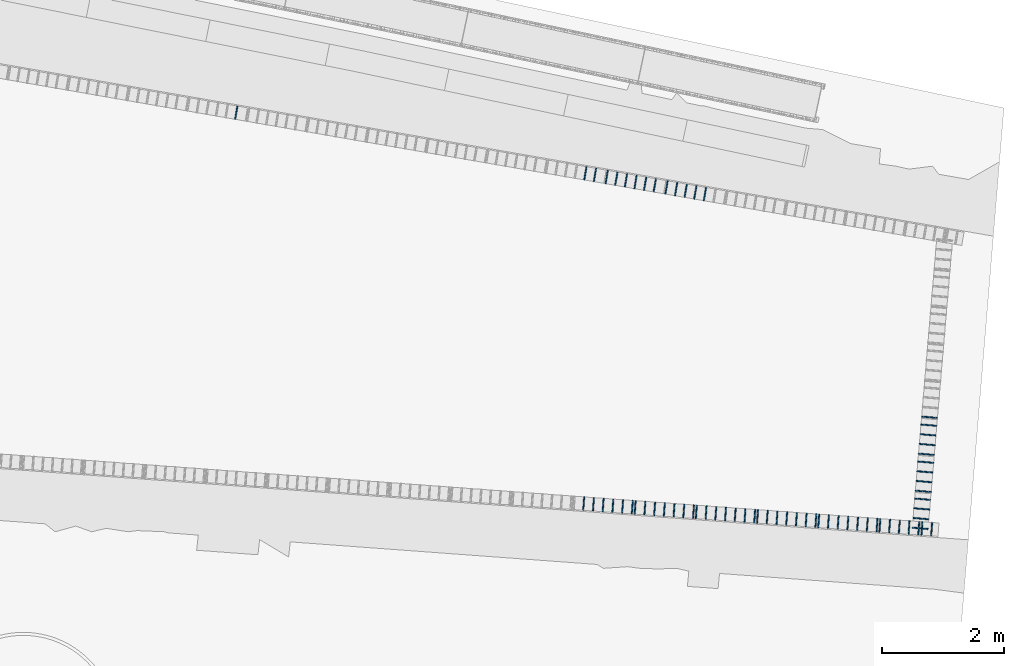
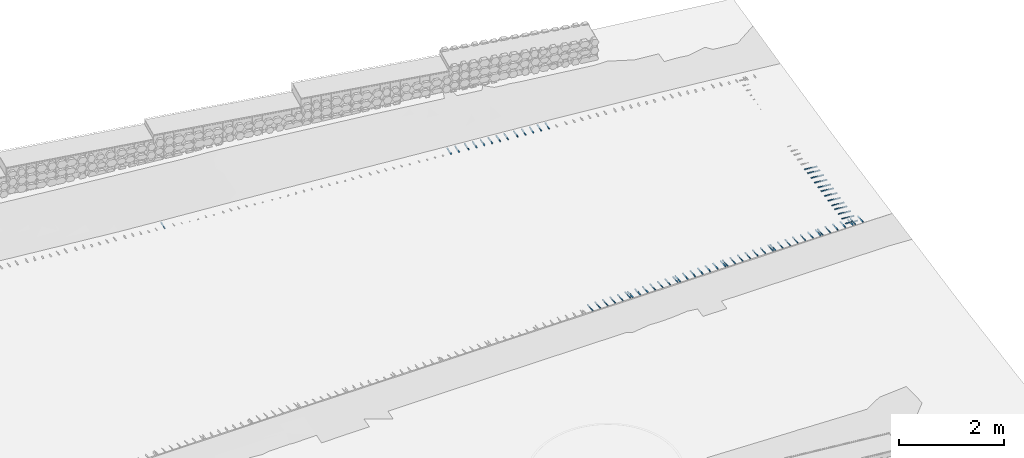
# Not in any storey, part 7 of 33: 68 members.
"""IFC4 model written with IfcOpenShell, lengths in metres."""

from ifc_helpers import new_model, si_unit, direction, frame, origin_with_axes, place, context, subcontext, project, spatial, rectangle, extrude, material, material_profile, profile_set, profile_usage, type_object, element, save


model = new_model("IFC4")

# Units and contexts
model_context = context("Model", 3, precision=1e-05, world=origin_with_axes(), true_north=direction((0.0, 1.0)))
body_context = subcontext(model_context, "Body", "Model", "MODEL_VIEW")
ifc_project = project(units=[si_unit("AREAUNIT", "SQUARE_METRE"), si_unit("VOLUMEUNIT", "CUBIC_METRE"), si_unit("LENGTHUNIT", "METRE")], contexts=[model_context])

# Site
site_placement = place(None, origin_with_axes())
site = spatial("IfcSite", under=ifc_project, at=site_placement, Name="Lares · Rua das Mercês · artigo 4771")

# Members
ifc_material = material(Name="Aço galvanizado / Stahl verzinkt", Category="steel")
ifc_material_profile = material_profile(ifc_material, rectangle(XDim=0.018, YDim=0.018))
ifc_profile_set = profile_set([ifc_material_profile], Name="R0.018")
ifc_profile_usage_1 = profile_usage(ifc_profile_set)
member_type = type_object("IfcMemberType", Name="R0.018 / galvanized", PredefinedType="NOTDEFINED", material=ifc_profile_set)
member_1_placement = place(site_placement, frame((76.9607857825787, 0.993157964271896, 15.8030032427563), z_axis=(0.0733080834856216, 0.997309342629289, 0.0), x_axis=(0.997309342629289, -0.0733080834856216, 0.0)))
element("IfcMember", 1, at=member_1_placement, inside=site, type_object=member_type, material=ifc_profile_usage_1, Name="Acesso · dreno lateral raso · grelha", context=body_context, shape_type="SweptSolid", body=[
    extrude(rectangle(XDim=0.018, YDim=0.018), origin_with_axes(), (0.0, 0.0, 1.0), 0.22),
])
ifc_profile_usage_2 = profile_usage(ifc_profile_set)
member_2_placement = place(site_placement, frame((77.1203552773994, 0.981428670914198, 15.8122072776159), z_axis=(0.0733080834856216, 0.997309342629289, 0.0), x_axis=(0.997309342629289, -0.0733080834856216, 0.0)))
element("IfcMember", 2, at=member_2_placement, inside=site, type_object=member_type, material=ifc_profile_usage_2, Name="Acesso · dreno lateral raso · grelha", context=body_context, shape_type="SweptSolid", body=[
    extrude(rectangle(XDim=0.018, YDim=0.018), origin_with_axes(), (0.0, 0.0, 1.0), 0.22),
])
ifc_profile_usage_3 = profile_usage(ifc_profile_set)
member_3_placement = place(site_placement, frame((77.2799247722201, 0.969699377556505, 15.8214113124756), z_axis=(0.0733080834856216, 0.997309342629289, 0.0), x_axis=(0.997309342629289, -0.0733080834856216, 0.0)))
element("IfcMember", 3, at=member_3_placement, inside=site, type_object=member_type, material=ifc_profile_usage_3, Name="Acesso · dreno lateral raso · grelha", context=body_context, shape_type="SweptSolid", body=[
    extrude(rectangle(XDim=0.018, YDim=0.018), origin_with_axes(), (0.0, 0.0, 1.0), 0.22),
])
ifc_profile_usage_4 = profile_usage(ifc_profile_set)
member_4_placement = place(site_placement, frame((77.4394942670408, 0.957970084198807, 15.8306153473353), z_axis=(0.0733080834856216, 0.997309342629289, 0.0), x_axis=(0.997309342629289, -0.0733080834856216, 0.0)))
element("IfcMember", 4, at=member_4_placement, inside=site, type_object=member_type, material=ifc_profile_usage_4, Name="Acesso · dreno lateral raso · grelha", context=body_context, shape_type="SweptSolid", body=[
    extrude(rectangle(XDim=0.018, YDim=0.018), origin_with_axes(), (0.0, 0.0, 1.0), 0.22),
])
ifc_profile_usage_5 = profile_usage(ifc_profile_set)
member_5_placement = place(site_placement, frame((77.5990637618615, 0.946240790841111, 15.839819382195), z_axis=(0.0733080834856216, 0.997309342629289, 0.0), x_axis=(0.997309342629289, -0.0733080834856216, 0.0)))
element("IfcMember", 5, at=member_5_placement, inside=site, type_object=member_type, material=ifc_profile_usage_5, Name="Acesso · dreno lateral raso · grelha", context=body_context, shape_type="SweptSolid", body=[
    extrude(rectangle(XDim=0.018, YDim=0.018), origin_with_axes(), (0.0, 0.0, 1.0), 0.22),
])
ifc_profile_usage_6 = profile_usage(ifc_profile_set)
member_6_placement = place(site_placement, frame((77.7586332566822, 0.934511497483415, 15.8490234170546), z_axis=(0.0733080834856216, 0.997309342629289, 0.0), x_axis=(0.997309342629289, -0.0733080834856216, 0.0)))
element("IfcMember", 6, at=member_6_placement, inside=site, type_object=member_type, material=ifc_profile_usage_6, Name="Acesso · dreno lateral raso · grelha", context=body_context, shape_type="SweptSolid", body=[
    extrude(rectangle(XDim=0.018, YDim=0.018), origin_with_axes(), (0.0, 0.0, 1.0), 0.22),
])
ifc_profile_usage_7 = profile_usage(ifc_profile_set)
member_7_placement = place(site_placement, frame((77.8052025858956, 0.931088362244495, 15.8517095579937), z_axis=(0.0733086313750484, 0.997309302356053, 0.0), x_axis=(0.997309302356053, -0.0733086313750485, 0.0)))
element("IfcMember", 7, at=member_7_placement, inside=site, type_object=member_type, material=ifc_profile_usage_7, Name="Acesso · dreno lateral raso · grelha", context=body_context, shape_type="SweptSolid", body=[
    extrude(rectangle(XDim=0.018, YDim=0.018), origin_with_axes(), (0.0, 0.0, 1.0), 0.22),
])
ifc_profile_usage_8 = profile_usage(ifc_profile_set)
member_8_placement = place(site_placement, frame((77.9647720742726, 0.919358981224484, 15.8609135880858), z_axis=(0.0733086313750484, 0.997309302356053, 0.0), x_axis=(0.997309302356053, -0.0733086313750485, 0.0)))
element("IfcMember", 8, at=member_8_placement, inside=site, type_object=member_type, material=ifc_profile_usage_8, Name="Acesso · dreno lateral raso · grelha", context=body_context, shape_type="SweptSolid", body=[
    extrude(rectangle(XDim=0.018, YDim=0.018), origin_with_axes(), (0.0, 0.0, 1.0), 0.22),
])
ifc_profile_usage_9 = profile_usage(ifc_profile_set)
member_9_placement = place(site_placement, frame((78.1243415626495, 0.90762960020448, 15.870117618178), z_axis=(0.0733086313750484, 0.997309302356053, 0.0), x_axis=(0.997309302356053, -0.0733086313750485, 0.0)))
element("IfcMember", 9, at=member_9_placement, inside=site, type_object=member_type, material=ifc_profile_usage_9, Name="Acesso · dreno lateral raso · grelha", context=body_context, shape_type="SweptSolid", body=[
    extrude(rectangle(XDim=0.018, YDim=0.018), origin_with_axes(), (0.0, 0.0, 1.0), 0.22),
])
ifc_profile_usage_10 = profile_usage(ifc_profile_set)
member_10_placement = place(site_placement, frame((78.2839110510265, 0.895900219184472, 15.8793216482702), z_axis=(0.0733086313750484, 0.997309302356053, 0.0), x_axis=(0.997309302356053, -0.0733086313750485, 0.0)))
element("IfcMember", 10, at=member_10_placement, inside=site, type_object=member_type, material=ifc_profile_usage_10, Name="Acesso · dreno lateral raso · grelha", context=body_context, shape_type="SweptSolid", body=[
    extrude(rectangle(XDim=0.018, YDim=0.018), origin_with_axes(), (0.0, 0.0, 1.0), 0.22),
])
ifc_profile_usage_11 = profile_usage(ifc_profile_set)
member_11_placement = place(site_placement, frame((78.4434805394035, 0.884170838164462, 15.8885256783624), z_axis=(0.0733086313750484, 0.997309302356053, 0.0), x_axis=(0.997309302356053, -0.0733086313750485, 0.0)))
element("IfcMember", 11, at=member_11_placement, inside=site, type_object=member_type, material=ifc_profile_usage_11, Name="Acesso · dreno lateral raso · grelha", context=body_context, shape_type="SweptSolid", body=[
    extrude(rectangle(XDim=0.018, YDim=0.018), origin_with_axes(), (0.0, 0.0, 1.0), 0.22),
])
ifc_profile_usage_12 = profile_usage(ifc_profile_set)
member_12_placement = place(site_placement, frame((78.6030500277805, 0.872441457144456, 15.8977297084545), z_axis=(0.0733086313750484, 0.997309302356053, 0.0), x_axis=(0.997309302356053, -0.0733086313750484, 0.0)))
element("IfcMember", 12, at=member_12_placement, inside=site, type_object=member_type, material=ifc_profile_usage_12, Name="Acesso · dreno lateral raso · grelha", context=body_context, shape_type="SweptSolid", body=[
    extrude(rectangle(XDim=0.018, YDim=0.018), origin_with_axes(), (0.0, 0.0, 1.0), 0.22),
])
ifc_profile_usage_13 = profile_usage(ifc_profile_set)
member_13_placement = place(site_placement, frame((78.7626195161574, 0.860712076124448, 15.9069337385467), z_axis=(0.0733086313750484, 0.997309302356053, 0.0), x_axis=(0.997309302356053, -0.0733086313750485, 0.0)))
element("IfcMember", 13, at=member_13_placement, inside=site, type_object=member_type, material=ifc_profile_usage_13, Name="Acesso · dreno lateral raso · grelha", context=body_context, shape_type="SweptSolid", body=[
    extrude(rectangle(XDim=0.018, YDim=0.018), origin_with_axes(), (0.0, 0.0, 1.0), 0.22),
])
ifc_profile_usage_14 = profile_usage(ifc_profile_set)
member_14_placement = place(site_placement, frame((78.8091771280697, 0.857289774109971, 15.9096192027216), z_axis=(0.073309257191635, 0.997309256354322, 0.0), x_axis=(0.997309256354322, -0.073309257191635, 0.0)))
element("IfcMember", 14, at=member_14_placement, inside=site, type_object=member_type, material=ifc_profile_usage_14, Name="Acesso · dreno lateral raso · grelha", context=body_context, shape_type="SweptSolid", body=[
    extrude(rectangle(XDim=0.018, YDim=0.018), origin_with_axes(), (0.0, 0.0, 1.0), 0.22),
])
ifc_profile_usage_15 = profile_usage(ifc_profile_set)
member_15_placement = place(site_placement, frame((78.9687466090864, 0.845560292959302, 15.9188232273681), z_axis=(0.0733092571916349, 0.997309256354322, 0.0), x_axis=(0.997309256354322, -0.0733092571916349, 0.0)))
element("IfcMember", 15, at=member_15_placement, inside=site, type_object=member_type, material=ifc_profile_usage_15, Name="Acesso · dreno lateral raso · grelha", context=body_context, shape_type="SweptSolid", body=[
    extrude(rectangle(XDim=0.018, YDim=0.018), origin_with_axes(), (0.0, 0.0, 1.0), 0.22),
])
ifc_profile_usage_16 = profile_usage(ifc_profile_set)
member_16_placement = place(site_placement, frame((79.1283160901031, 0.833830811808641, 15.9280272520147), z_axis=(0.0733092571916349, 0.997309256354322, 0.0), x_axis=(0.997309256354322, -0.0733092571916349, 0.0)))
element("IfcMember", 16, at=member_16_placement, inside=site, type_object=member_type, material=ifc_profile_usage_16, Name="Acesso · dreno lateral raso · grelha", context=body_context, shape_type="SweptSolid", body=[
    extrude(rectangle(XDim=0.018, YDim=0.018), origin_with_axes(), (0.0, 0.0, 1.0), 0.22),
])
ifc_profile_usage_17 = profile_usage(ifc_profile_set)
member_17_placement = place(site_placement, frame((79.2878855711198, 0.822101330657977, 15.9372312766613), z_axis=(0.073309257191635, 0.997309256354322, 0.0), x_axis=(0.997309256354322, -0.073309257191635, 0.0)))
element("IfcMember", 17, at=member_17_placement, inside=site, type_object=member_type, material=ifc_profile_usage_17, Name="Acesso · dreno lateral raso · grelha", context=body_context, shape_type="SweptSolid", body=[
    extrude(rectangle(XDim=0.018, YDim=0.018), origin_with_axes(), (0.0, 0.0, 1.0), 0.22),
])
ifc_profile_usage_18 = profile_usage(ifc_profile_set)
member_18_placement = place(site_placement, frame((79.4474550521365, 0.810371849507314, 15.9464353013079), z_axis=(0.0733092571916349, 0.997309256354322, 0.0), x_axis=(0.997309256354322, -0.0733092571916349, 0.0)))
element("IfcMember", 18, at=member_18_placement, inside=site, type_object=member_type, material=ifc_profile_usage_18, Name="Acesso · dreno lateral raso · grelha", context=body_context, shape_type="SweptSolid", body=[
    extrude(rectangle(XDim=0.018, YDim=0.018), origin_with_axes(), (0.0, 0.0, 1.0), 0.22),
])
ifc_profile_usage_19 = profile_usage(ifc_profile_set)
member_19_placement = place(site_placement, frame((79.6070245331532, 0.798642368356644, 15.9556393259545), z_axis=(0.0733092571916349, 0.997309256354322, 0.0), x_axis=(0.997309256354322, -0.0733092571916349, 0.0)))
element("IfcMember", 19, at=member_19_placement, inside=site, type_object=member_type, material=ifc_profile_usage_19, Name="Acesso · dreno lateral raso · grelha", context=body_context, shape_type="SweptSolid", body=[
    extrude(rectangle(XDim=0.018, YDim=0.018), origin_with_axes(), (0.0, 0.0, 1.0), 0.22),
])
ifc_profile_usage_20 = profile_usage(ifc_profile_set)
member_20_placement = place(site_placement, frame((79.7665940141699, 0.786912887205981, 15.964843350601), z_axis=(0.073309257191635, 0.997309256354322, 0.0), x_axis=(0.997309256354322, -0.073309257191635, 0.0)))
element("IfcMember", 20, at=member_20_placement, inside=site, type_object=member_type, material=ifc_profile_usage_20, Name="Acesso · dreno lateral raso · grelha", context=body_context, shape_type="SweptSolid", body=[
    extrude(rectangle(XDim=0.018, YDim=0.018), origin_with_axes(), (0.0, 0.0, 1.0), 0.22),
])
ifc_profile_usage_21 = profile_usage(ifc_profile_set)
member_21_placement = place(site_placement, frame((79.8131392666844, 0.783491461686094, 15.9675281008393), z_axis=(0.0733099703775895, 0.997309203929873, 0.0), x_axis=(0.997309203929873, -0.0733099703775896, 0.0)))
element("IfcMember", 21, at=member_21_placement, inside=site, type_object=member_type, material=ifc_profile_usage_21, Name="Acesso · dreno lateral raso · grelha", context=body_context, shape_type="SweptSolid", body=[
    extrude(rectangle(XDim=0.018, YDim=0.018), origin_with_axes(), (0.0, 0.0, 1.0), 0.22),
])
ifc_profile_usage_22 = profile_usage(ifc_profile_set)
member_22_placement = place(site_placement, frame((79.9727087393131, 0.771761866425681, 15.9767321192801), z_axis=(0.0733099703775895, 0.997309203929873, 0.0), x_axis=(0.997309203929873, -0.0733099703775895, 0.0)))
element("IfcMember", 22, at=member_22_placement, inside=site, type_object=member_type, material=ifc_profile_usage_22, Name="Acesso · dreno lateral raso · grelha", context=body_context, shape_type="SweptSolid", body=[
    extrude(rectangle(XDim=0.018, YDim=0.018), origin_with_axes(), (0.0, 0.0, 1.0), 0.22),
])
ifc_profile_usage_23 = profile_usage(ifc_profile_set)
member_23_placement = place(site_placement, frame((80.1322782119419, 0.760032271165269, 15.9859361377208), z_axis=(0.0733099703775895, 0.997309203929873, 0.0), x_axis=(0.997309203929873, -0.0733099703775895, 0.0)))
element("IfcMember", 23, at=member_23_placement, inside=site, type_object=member_type, material=ifc_profile_usage_23, Name="Acesso · dreno lateral raso · grelha", context=body_context, shape_type="SweptSolid", body=[
    extrude(rectangle(XDim=0.018, YDim=0.018), origin_with_axes(), (0.0, 0.0, 1.0), 0.22),
])
ifc_profile_usage_24 = profile_usage(ifc_profile_set)
member_24_placement = place(site_placement, frame((80.2918476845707, 0.748302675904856, 15.9951401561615), z_axis=(0.0733099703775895, 0.997309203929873, 0.0), x_axis=(0.997309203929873, -0.0733099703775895, 0.0)))
element("IfcMember", 24, at=member_24_placement, inside=site, type_object=member_type, material=ifc_profile_usage_24, Name="Acesso · dreno lateral raso · grelha", context=body_context, shape_type="SweptSolid", body=[
    extrude(rectangle(XDim=0.018, YDim=0.018), origin_with_axes(), (0.0, 0.0, 1.0), 0.22),
])
ifc_profile_usage_25 = profile_usage(ifc_profile_set)
member_25_placement = place(site_placement, frame((80.4514171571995, 0.736573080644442, 16.0043441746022), z_axis=(0.0733099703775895, 0.997309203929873, 0.0), x_axis=(0.997309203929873, -0.0733099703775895, 0.0)))
element("IfcMember", 25, at=member_25_placement, inside=site, type_object=member_type, material=ifc_profile_usage_25, Name="Acesso · dreno lateral raso · grelha", context=body_context, shape_type="SweptSolid", body=[
    extrude(rectangle(XDim=0.018, YDim=0.018), origin_with_axes(), (0.0, 0.0, 1.0), 0.22),
])
ifc_profile_usage_26 = profile_usage(ifc_profile_set)
member_26_placement = place(site_placement, frame((80.6109866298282, 0.72484348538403, 16.013548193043), z_axis=(0.0733099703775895, 0.997309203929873, 0.0), x_axis=(0.997309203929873, -0.0733099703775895, 0.0)))
element("IfcMember", 26, at=member_26_placement, inside=site, type_object=member_type, material=ifc_profile_usage_26, Name="Acesso · dreno lateral raso · grelha", context=body_context, shape_type="SweptSolid", body=[
    extrude(rectangle(XDim=0.018, YDim=0.018), origin_with_axes(), (0.0, 0.0, 1.0), 0.22),
])
ifc_profile_usage_27 = profile_usage(ifc_profile_set)
member_27_placement = place(site_placement, frame((80.770556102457, 0.713113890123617, 16.0227522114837), z_axis=(0.0733099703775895, 0.997309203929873, 0.0), x_axis=(0.997309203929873, -0.0733099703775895, 0.0)))
element("IfcMember", 27, at=member_27_placement, inside=site, type_object=member_type, material=ifc_profile_usage_27, Name="Acesso · dreno lateral raso · grelha", context=body_context, shape_type="SweptSolid", body=[
    extrude(rectangle(XDim=0.018, YDim=0.018), origin_with_axes(), (0.0, 0.0, 1.0), 0.22),
])
ifc_profile_usage_28 = profile_usage(ifc_profile_set)
member_28_placement = place(site_placement, frame((80.8170883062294, 0.709693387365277, 16.0252453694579), z_axis=(0.0733107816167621, 0.997309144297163, 0.0), x_axis=(0.997309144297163, -0.0733107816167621, 0.0)))
element("IfcMember", 28, at=member_28_placement, inside=site, type_object=member_type, material=ifc_profile_usage_28, Name="Acesso · dreno lateral raso · grelha", context=body_context, shape_type="SweptSolid", body=[
    extrude(rectangle(XDim=0.018, YDim=0.018), origin_with_axes(), (0.0, 0.0, 1.0), 0.220000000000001),
])
ifc_profile_usage_29 = profile_usage(ifc_profile_set)
member_29_placement = place(site_placement, frame((80.976657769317, 0.697963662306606, 16.0334315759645), z_axis=(0.0733107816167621, 0.997309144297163, 0.0), x_axis=(0.997309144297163, -0.0733107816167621, 0.0)))
element("IfcMember", 29, at=member_29_placement, inside=site, type_object=member_type, material=ifc_profile_usage_29, Name="Acesso · dreno lateral raso · grelha", context=body_context, shape_type="SweptSolid", body=[
    extrude(rectangle(XDim=0.018, YDim=0.018), origin_with_axes(), (0.0, 0.0, 1.0), 0.220000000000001),
])
ifc_profile_usage_30 = profile_usage(ifc_profile_set)
member_30_placement = place(site_placement, frame((81.1362272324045, 0.686233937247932, 16.0416177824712), z_axis=(0.0733107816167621, 0.997309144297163, 0.0), x_axis=(0.997309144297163, -0.0733107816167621, 0.0)))
element("IfcMember", 30, at=member_30_placement, inside=site, type_object=member_type, material=ifc_profile_usage_30, Name="Acesso · dreno lateral raso · grelha", context=body_context, shape_type="SweptSolid", body=[
    extrude(rectangle(XDim=0.018, YDim=0.018), origin_with_axes(), (0.0, 0.0, 1.0), 0.220000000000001),
])
ifc_profile_usage_31 = profile_usage(ifc_profile_set)
member_31_placement = place(site_placement, frame((81.2957966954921, 0.674504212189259, 16.0498039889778), z_axis=(0.0733107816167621, 0.997309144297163, 0.0), x_axis=(0.997309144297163, -0.0733107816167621, 0.0)))
element("IfcMember", 31, at=member_31_placement, inside=site, type_object=member_type, material=ifc_profile_usage_31, Name="Acesso · dreno lateral raso · grelha", context=body_context, shape_type="SweptSolid", body=[
    extrude(rectangle(XDim=0.018, YDim=0.018), origin_with_axes(), (0.0, 0.0, 1.0), 0.220000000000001),
])
ifc_profile_usage_32 = profile_usage(ifc_profile_set)
member_32_placement = place(site_placement, frame((81.4553661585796, 0.662774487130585, 16.0579901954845), z_axis=(0.0733107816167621, 0.997309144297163, 0.0), x_axis=(0.997309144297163, -0.0733107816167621, 0.0)))
element("IfcMember", 32, at=member_32_placement, inside=site, type_object=member_type, material=ifc_profile_usage_32, Name="Acesso · dreno lateral raso · grelha", context=body_context, shape_type="SweptSolid", body=[
    extrude(rectangle(XDim=0.018, YDim=0.018), origin_with_axes(), (0.0, 0.0, 1.0), 0.220000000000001),
])
ifc_profile_usage_33 = profile_usage(ifc_profile_set)
member_33_placement = place(site_placement, frame((81.6149356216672, 0.651044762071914, 16.0661764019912), z_axis=(0.0733107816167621, 0.997309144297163, 0.0), x_axis=(0.997309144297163, -0.0733107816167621, 0.0)))
element("IfcMember", 33, at=member_33_placement, inside=site, type_object=member_type, material=ifc_profile_usage_33, Name="Acesso · dreno lateral raso · grelha", context=body_context, shape_type="SweptSolid", body=[
    extrude(rectangle(XDim=0.018, YDim=0.018), origin_with_axes(), (0.0, 0.0, 1.0), 0.220000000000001),
])
ifc_profile_usage_34 = profile_usage(ifc_profile_set)
member_34_placement = place(site_placement, frame((81.7745050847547, 0.639315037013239, 16.0743626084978), z_axis=(0.0733107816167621, 0.997309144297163, 0.0), x_axis=(0.997309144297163, -0.0733107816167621, 0.0)))
element("IfcMember", 34, at=member_34_placement, inside=site, type_object=member_type, material=ifc_profile_usage_34, Name="Acesso · dreno lateral raso · grelha", context=body_context, shape_type="SweptSolid", body=[
    extrude(rectangle(XDim=0.018, YDim=0.018), origin_with_axes(), (0.0, 0.0, 1.0), 0.220000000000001),
])
ifc_profile_usage_35 = profile_usage(ifc_profile_set)
member_35_placement = place(site_placement, frame((81.821023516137, 0.635895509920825, 16.0765674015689), z_axis=(0.0733115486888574, 0.997309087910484, 0.0), x_axis=(0.997309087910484, -0.0733115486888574, 0.0)))
element("IfcMember", 35, at=member_35_placement, inside=site, type_object=member_type, material=ifc_profile_usage_35, Name="Acesso · dreno lateral raso · grelha", context=body_context, shape_type="SweptSolid", body=[
    extrude(rectangle(XDim=0.018, YDim=0.018), origin_with_axes(), (0.0, 0.0, 1.0), 0.219999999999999),
])
ifc_profile_usage_36 = profile_usage(ifc_profile_set)
member_36_placement = place(site_placement, frame((81.9805929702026, 0.624165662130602, 16.0837845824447), z_axis=(0.0733115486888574, 0.997309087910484, 0.0), x_axis=(0.997309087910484, -0.0733115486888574, 0.0)))
element("IfcMember", 36, at=member_36_placement, inside=site, type_object=member_type, material=ifc_profile_usage_36, Name="Acesso · dreno lateral raso · grelha", context=body_context, shape_type="SweptSolid", body=[
    extrude(rectangle(XDim=0.018, YDim=0.018), origin_with_axes(), (0.0, 0.0, 1.0), 0.219999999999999),
])
ifc_profile_usage_37 = profile_usage(ifc_profile_set)
member_37_placement = place(site_placement, frame((82.1401624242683, 0.61243581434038, 16.0910017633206), z_axis=(0.0733115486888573, 0.997309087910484, 0.0), x_axis=(0.997309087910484, -0.0733115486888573, 0.0)))
element("IfcMember", 37, at=member_37_placement, inside=site, type_object=member_type, material=ifc_profile_usage_37, Name="Acesso · dreno lateral raso · grelha", context=body_context, shape_type="SweptSolid", body=[
    extrude(rectangle(XDim=0.018, YDim=0.018), origin_with_axes(), (0.0, 0.0, 1.0), 0.22),
])
ifc_profile_usage_38 = profile_usage(ifc_profile_set)
member_38_placement = place(site_placement, frame((82.299731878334, 0.600705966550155, 16.0982189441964), z_axis=(0.0733115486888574, 0.997309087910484, 0.0), x_axis=(0.997309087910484, -0.0733115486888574, 0.0)))
element("IfcMember", 38, at=member_38_placement, inside=site, type_object=member_type, material=ifc_profile_usage_38, Name="Acesso · dreno lateral raso · grelha", context=body_context, shape_type="SweptSolid", body=[
    extrude(rectangle(XDim=0.018, YDim=0.018), origin_with_axes(), (0.0, 0.0, 1.0), 0.219999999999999),
])
ifc_profile_usage_39 = profile_usage(ifc_profile_set)
member_39_placement = place(site_placement, frame((82.4593013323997, 0.588976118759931, 16.1054361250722), z_axis=(0.0733115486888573, 0.997309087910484, 0.0), x_axis=(0.997309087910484, -0.0733115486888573, 0.0)))
element("IfcMember", 39, at=member_39_placement, inside=site, type_object=member_type, material=ifc_profile_usage_39, Name="Acesso · dreno lateral raso · grelha", context=body_context, shape_type="SweptSolid", body=[
    extrude(rectangle(XDim=0.018, YDim=0.018), origin_with_axes(), (0.0, 0.0, 1.0), 0.22),
])
ifc_profile_usage_40 = profile_usage(ifc_profile_set)
member_40_placement = place(site_placement, frame((82.5114377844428, 0.585143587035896, 16.1077942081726), z_axis=(0.0733120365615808, 0.997309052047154, 0.0), x_axis=(0.997309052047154, -0.0733120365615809, 0.0)))
element("IfcMember", 40, at=member_40_placement, inside=site, type_object=member_type, material=ifc_profile_usage_40, Name="Acesso · dreno lateral raso · grelha", context=body_context, shape_type="SweptSolid", body=[
    extrude(rectangle(XDim=0.018, YDim=0.018), origin_with_axes(), (0.0, 0.0, 1.0), 0.220000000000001),
])
ifc_profile_usage_41 = profile_usage(ifc_profile_set)
member_41_placement = place(site_placement, frame((82.6710072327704, 0.57341366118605, 16.1150113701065), z_axis=(0.0733120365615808, 0.997309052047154, 0.0), x_axis=(0.997309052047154, -0.0733120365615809, 0.0)))
element("IfcMember", 41, at=member_41_placement, inside=site, type_object=member_type, material=ifc_profile_usage_41, Name="Acesso · dreno lateral raso · grelha", context=body_context, shape_type="SweptSolid", body=[
    extrude(rectangle(XDim=0.018, YDim=0.018), origin_with_axes(), (0.0, 0.0, 1.0), 0.220000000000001),
])
ifc_profile_usage_42 = profile_usage(ifc_profile_set)
member_42_placement = place(site_placement, frame((71.2489285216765, 7.40987534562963, 15.8196529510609), z_axis=(0.171138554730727, 0.985246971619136, 0.0), x_axis=(0.985246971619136, -0.171138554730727, 0.0)))
element("IfcMember", 42, at=member_42_placement, inside=site, type_object=member_type, material=ifc_profile_usage_42, Name="Acesso · dreno lateral raso · grelha", context=body_context, shape_type="SweptSolid", body=[
    extrude(rectangle(XDim=0.018, YDim=0.018), origin_with_axes(), (0.0, 0.0, 1.0), 0.220000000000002),
])
ifc_profile_usage_43 = profile_usage(ifc_profile_set)
member_43_placement = place(site_placement, frame((76.977314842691, 6.41486988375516, 16.1459120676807), z_axis=(0.171131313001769, 0.985248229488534, 0.0), x_axis=(0.985248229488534, -0.171131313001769, 0.0)))
element("IfcMember", 43, at=member_43_placement, inside=site, type_object=member_type, material=ifc_profile_usage_43, Name="Acesso · dreno lateral raso · grelha", context=body_context, shape_type="SweptSolid", body=[
    extrude(rectangle(XDim=0.018, YDim=0.018), origin_with_axes(), (0.0, 0.0, 1.0), 0.219999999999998),
])
ifc_profile_usage_44 = profile_usage(ifc_profile_set)
member_44_placement = place(site_placement, frame((77.1349545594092, 6.38748887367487, 16.1546244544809), z_axis=(0.171131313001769, 0.985248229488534, 0.0), x_axis=(0.985248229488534, -0.171131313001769, 0.0)))
element("IfcMember", 44, at=member_44_placement, inside=site, type_object=member_type, material=ifc_profile_usage_44, Name="Acesso · dreno lateral raso · grelha", context=body_context, shape_type="SweptSolid", body=[
    extrude(rectangle(XDim=0.018, YDim=0.018), origin_with_axes(), (0.0, 0.0, 1.0), 0.219999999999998),
])
ifc_profile_usage_45 = profile_usage(ifc_profile_set)
member_45_placement = place(site_placement, frame((77.327794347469, 6.35399388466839, 16.1652822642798), z_axis=(0.171129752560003, 0.985248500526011, 0.0), x_axis=(0.985248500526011, -0.171129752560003, 0.0)))
element("IfcMember", 45, at=member_45_placement, inside=site, type_object=member_type, material=ifc_profile_usage_45, Name="Acesso · dreno lateral raso · grelha", context=body_context, shape_type="SweptSolid", body=[
    extrude(rectangle(XDim=0.018, YDim=0.018), origin_with_axes(), (0.0, 0.0, 1.0), 0.220000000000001),
])
ifc_profile_usage_46 = profile_usage(ifc_profile_set)
member_46_placement = place(site_placement, frame((77.4854341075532, 6.32661312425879, 16.1739946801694), z_axis=(0.171129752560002, 0.985248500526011, 0.0), x_axis=(0.985248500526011, -0.171129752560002, 0.0)))
element("IfcMember", 46, at=member_46_placement, inside=site, type_object=member_type, material=ifc_profile_usage_46, Name="Acesso · dreno lateral raso · grelha", context=body_context, shape_type="SweptSolid", body=[
    extrude(rectangle(XDim=0.018, YDim=0.018), origin_with_axes(), (0.0, 0.0, 1.0), 0.220000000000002),
])
ifc_profile_usage_47 = profile_usage(ifc_profile_set)
member_47_placement = place(site_placement, frame((77.6430738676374, 6.2992323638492, 16.182707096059), z_axis=(0.171129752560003, 0.985248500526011, 0.0), x_axis=(0.985248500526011, -0.171129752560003, 0.0)))
element("IfcMember", 47, at=member_47_placement, inside=site, type_object=member_type, material=ifc_profile_usage_47, Name="Acesso · dreno lateral raso · grelha", context=body_context, shape_type="SweptSolid", body=[
    extrude(rectangle(XDim=0.018, YDim=0.018), origin_with_axes(), (0.0, 0.0, 1.0), 0.220000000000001),
])
ifc_profile_usage_48 = profile_usage(ifc_profile_set)
member_48_placement = place(site_placement, frame((77.8007136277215, 6.2718516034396, 16.1914195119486), z_axis=(0.171129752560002, 0.985248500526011, 0.0), x_axis=(0.985248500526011, -0.171129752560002, 0.0)))
element("IfcMember", 48, at=member_48_placement, inside=site, type_object=member_type, material=ifc_profile_usage_48, Name="Acesso · dreno lateral raso · grelha", context=body_context, shape_type="SweptSolid", body=[
    extrude(rectangle(XDim=0.018, YDim=0.018), origin_with_axes(), (0.0, 0.0, 1.0), 0.220000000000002),
])
ifc_profile_usage_49 = profile_usage(ifc_profile_set)
member_49_placement = place(site_placement, frame((77.9583533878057, 6.24447084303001, 16.2001319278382), z_axis=(0.171129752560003, 0.985248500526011, 0.0), x_axis=(0.985248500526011, -0.171129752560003, 0.0)))
element("IfcMember", 49, at=member_49_placement, inside=site, type_object=member_type, material=ifc_profile_usage_49, Name="Acesso · dreno lateral raso · grelha", context=body_context, shape_type="SweptSolid", body=[
    extrude(rectangle(XDim=0.018, YDim=0.018), origin_with_axes(), (0.0, 0.0, 1.0), 0.220000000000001),
])
ifc_profile_usage_50 = profile_usage(ifc_profile_set)
member_50_placement = place(site_placement, frame((78.1159931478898, 6.21709008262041, 16.2088443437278), z_axis=(0.171129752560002, 0.985248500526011, 0.0), x_axis=(0.985248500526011, -0.171129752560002, 0.0)))
element("IfcMember", 50, at=member_50_placement, inside=site, type_object=member_type, material=ifc_profile_usage_50, Name="Acesso · dreno lateral raso · grelha", context=body_context, shape_type="SweptSolid", body=[
    extrude(rectangle(XDim=0.018, YDim=0.018), origin_with_axes(), (0.0, 0.0, 1.0), 0.220000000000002),
])
ifc_profile_usage_51 = profile_usage(ifc_profile_set)
member_51_placement = place(site_placement, frame((78.3088438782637, 6.18359351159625, 16.2195027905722), z_axis=(0.171128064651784, 0.985248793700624, 0.0), x_axis=(0.985248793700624, -0.171128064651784, 0.0)))
element("IfcMember", 51, at=member_51_placement, inside=site, type_object=member_type, material=ifc_profile_usage_51, Name="Acesso · dreno lateral raso · grelha", context=body_context, shape_type="SweptSolid", body=[
    extrude(rectangle(XDim=0.018, YDim=0.018), origin_with_axes(), (0.0, 0.0, 1.0), 0.219999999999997),
])
ifc_profile_usage_52 = profile_usage(ifc_profile_set)
member_52_placement = place(site_placement, frame((78.4664836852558, 6.15621302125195, 16.2282152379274), z_axis=(0.171128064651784, 0.985248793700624, 0.0), x_axis=(0.985248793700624, -0.171128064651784, 0.0)))
element("IfcMember", 52, at=member_52_placement, inside=site, type_object=member_type, material=ifc_profile_usage_52, Name="Acesso · dreno lateral raso · grelha", context=body_context, shape_type="SweptSolid", body=[
    extrude(rectangle(XDim=0.018, YDim=0.018), origin_with_axes(), (0.0, 0.0, 1.0), 0.219999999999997),
])
ifc_profile_usage_53 = profile_usage(ifc_profile_set)
member_53_placement = place(site_placement, frame((78.6241234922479, 6.12883253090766, 16.2369276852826), z_axis=(0.171128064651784, 0.985248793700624, 0.0), x_axis=(0.985248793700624, -0.171128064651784, 0.0)))
element("IfcMember", 53, at=member_53_placement, inside=site, type_object=member_type, material=ifc_profile_usage_53, Name="Acesso · dreno lateral raso · grelha", context=body_context, shape_type="SweptSolid", body=[
    extrude(rectangle(XDim=0.018, YDim=0.018), origin_with_axes(), (0.0, 0.0, 1.0), 0.219999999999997),
])
ifc_profile_usage_54 = profile_usage(ifc_profile_set)
member_54_placement = place(site_placement, frame((78.78176329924, 6.10145204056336, 16.2456401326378), z_axis=(0.171128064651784, 0.985248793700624, 0.0), x_axis=(0.985248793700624, -0.171128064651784, 0.0)))
element("IfcMember", 54, at=member_54_placement, inside=site, type_object=member_type, material=ifc_profile_usage_54, Name="Acesso · dreno lateral raso · grelha", context=body_context, shape_type="SweptSolid", body=[
    extrude(rectangle(XDim=0.018, YDim=0.018), origin_with_axes(), (0.0, 0.0, 1.0), 0.219999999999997),
])
ifc_profile_usage_55 = profile_usage(ifc_profile_set)
member_55_placement = place(site_placement, frame((78.939403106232, 6.07407155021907, 16.254352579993), z_axis=(0.171128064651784, 0.985248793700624, 0.0), x_axis=(0.985248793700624, -0.171128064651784, 0.0)))
element("IfcMember", 55, at=member_55_placement, inside=site, type_object=member_type, material=ifc_profile_usage_55, Name="Acesso · dreno lateral raso · grelha", context=body_context, shape_type="SweptSolid", body=[
    extrude(rectangle(XDim=0.018, YDim=0.018), origin_with_axes(), (0.0, 0.0, 1.0), 0.219999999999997),
])
ifc_profile_usage_56 = profile_usage(ifc_profile_set)
member_56_placement = place(site_placement, frame((82.6191169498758, 0.686050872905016, 16.10644099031), z_axis=(-0.99641625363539, 0.0845851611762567, 0.0), x_axis=(0.0845851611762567, 0.99641625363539, 0.0)))
element("IfcMember", 56, at=member_56_placement, inside=site, type_object=member_type, material=ifc_profile_usage_56, Name="Interceção · caleira rua · grelha", context=body_context, shape_type="SweptSolid", body=[
    extrude(rectangle(XDim=0.018, YDim=0.018), origin_with_axes(), (0.0, 0.0, 1.0), 0.260000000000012),
])
ifc_profile_usage_57 = profile_usage(ifc_profile_set)
member_57_placement = place(site_placement, frame((82.632650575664, 0.845477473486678, 16.11522271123), z_axis=(-0.996416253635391, 0.0845851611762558, 0.0), x_axis=(0.0845851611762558, 0.996416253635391, 0.0)))
element("IfcMember", 57, at=member_57_placement, inside=site, type_object=member_type, material=ifc_profile_usage_57, Name="Interceção · caleira rua · grelha", context=body_context, shape_type="SweptSolid", body=[
    extrude(rectangle(XDim=0.018, YDim=0.018), origin_with_axes(), (0.0, 0.0, 1.0), 0.260000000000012),
])
ifc_profile_usage_58 = profile_usage(ifc_profile_set)
member_58_placement = place(site_placement, frame((82.6461842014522, 1.00490407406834, 16.1240044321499), z_axis=(-0.996416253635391, 0.0845851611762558, 0.0), x_axis=(0.0845851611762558, 0.996416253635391, 0.0)))
element("IfcMember", 58, at=member_58_placement, inside=site, type_object=member_type, material=ifc_profile_usage_58, Name="Interceção · caleira rua · grelha", context=body_context, shape_type="SweptSolid", body=[
    extrude(rectangle(XDim=0.018, YDim=0.018), origin_with_axes(), (0.0, 0.0, 1.0), 0.260000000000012),
])
ifc_profile_usage_59 = profile_usage(ifc_profile_set)
member_59_placement = place(site_placement, frame((82.6597178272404, 1.16433067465, 16.1327861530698), z_axis=(-0.996416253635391, 0.0845851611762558, 0.0), x_axis=(0.0845851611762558, 0.996416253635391, 0.0)))
element("IfcMember", 59, at=member_59_placement, inside=site, type_object=member_type, material=ifc_profile_usage_59, Name="Interceção · caleira rua · grelha", context=body_context, shape_type="SweptSolid", body=[
    extrude(rectangle(XDim=0.018, YDim=0.018), origin_with_axes(), (0.0, 0.0, 1.0), 0.260000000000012),
])
ifc_profile_usage_60 = profile_usage(ifc_profile_set)
member_60_placement = place(site_placement, frame((82.6706983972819, 1.29368218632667, 16.1399112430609), z_axis=(-0.996416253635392, 0.0845851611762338, 0.0), x_axis=(0.0845851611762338, 0.996416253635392, 0.0)))
element("IfcMember", 60, at=member_60_placement, inside=site, type_object=member_type, material=ifc_profile_usage_60, Name="Interceção · caleira rua · grelha", context=body_context, shape_type="SweptSolid", body=[
    extrude(rectangle(XDim=0.018, YDim=0.018), origin_with_axes(), (0.0, 0.0, 1.0), 0.260000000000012),
])
ifc_profile_usage_61 = profile_usage(ifc_profile_set)
member_61_placement = place(site_placement, frame((82.6842320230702, 1.45310878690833, 16.1486929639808), z_axis=(-0.996416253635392, 0.0845851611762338, 0.0), x_axis=(0.0845851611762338, 0.996416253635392, 0.0)))
element("IfcMember", 61, at=member_61_placement, inside=site, type_object=member_type, material=ifc_profile_usage_61, Name="Interceção · caleira rua · grelha", context=body_context, shape_type="SweptSolid", body=[
    extrude(rectangle(XDim=0.018, YDim=0.018), origin_with_axes(), (0.0, 0.0, 1.0), 0.260000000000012),
])
ifc_profile_usage_62 = profile_usage(ifc_profile_set)
member_62_placement = place(site_placement, frame((82.6977656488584, 1.61253538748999, 16.1574746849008), z_axis=(-0.996416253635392, 0.0845851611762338, 0.0), x_axis=(0.0845851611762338, 0.996416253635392, 0.0)))
element("IfcMember", 62, at=member_62_placement, inside=site, type_object=member_type, material=ifc_profile_usage_62, Name="Interceção · caleira rua · grelha", context=body_context, shape_type="SweptSolid", body=[
    extrude(rectangle(XDim=0.018, YDim=0.018), origin_with_axes(), (0.0, 0.0, 1.0), 0.260000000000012),
])
ifc_profile_usage_63 = profile_usage(ifc_profile_set)
member_63_placement = place(site_placement, frame((82.7112992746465, 1.77196198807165, 16.1662564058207), z_axis=(-0.996416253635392, 0.0845851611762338, 0.0), x_axis=(0.0845851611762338, 0.996416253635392, 0.0)))
element("IfcMember", 63, at=member_63_placement, inside=site, type_object=member_type, material=ifc_profile_usage_63, Name="Interceção · caleira rua · grelha", context=body_context, shape_type="SweptSolid", body=[
    extrude(rectangle(XDim=0.018, YDim=0.018), origin_with_axes(), (0.0, 0.0, 1.0), 0.260000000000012),
])
ifc_profile_usage_64 = profile_usage(ifc_profile_set)
member_64_placement = place(site_placement, frame((82.7222798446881, 1.90131349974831, 16.1733814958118), z_axis=(-0.996416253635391, 0.0845851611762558, 0.0), x_axis=(0.0845851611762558, 0.996416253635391, 0.0)))
element("IfcMember", 64, at=member_64_placement, inside=site, type_object=member_type, material=ifc_profile_usage_64, Name="Interceção · caleira rua · grelha", context=body_context, shape_type="SweptSolid", body=[
    extrude(rectangle(XDim=0.018, YDim=0.018), origin_with_axes(), (0.0, 0.0, 1.0), 0.260000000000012),
])
ifc_profile_usage_65 = profile_usage(ifc_profile_set)
member_65_placement = place(site_placement, frame((82.7358134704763, 2.06074010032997, 16.1821632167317), z_axis=(-0.996416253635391, 0.0845851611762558, 0.0), x_axis=(0.0845851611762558, 0.996416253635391, 0.0)))
element("IfcMember", 65, at=member_65_placement, inside=site, type_object=member_type, material=ifc_profile_usage_65, Name="Interceção · caleira rua · grelha", context=body_context, shape_type="SweptSolid", body=[
    extrude(rectangle(XDim=0.018, YDim=0.018), origin_with_axes(), (0.0, 0.0, 1.0), 0.260000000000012),
])
ifc_profile_usage_66 = profile_usage(ifc_profile_set)
member_66_placement = place(site_placement, frame((82.7493470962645, 2.22016670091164, 16.1909449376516), z_axis=(-0.996416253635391, 0.0845851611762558, 0.0), x_axis=(0.0845851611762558, 0.996416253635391, 0.0)))
element("IfcMember", 66, at=member_66_placement, inside=site, type_object=member_type, material=ifc_profile_usage_66, Name="Interceção · caleira rua · grelha", context=body_context, shape_type="SweptSolid", body=[
    extrude(rectangle(XDim=0.018, YDim=0.018), origin_with_axes(), (0.0, 0.0, 1.0), 0.260000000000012),
])
ifc_profile_usage_67 = profile_usage(ifc_profile_set)
member_67_placement = place(site_placement, frame((82.7628807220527, 2.3795933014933, 16.1997266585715), z_axis=(-0.996416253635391, 0.0845851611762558, 0.0), x_axis=(0.0845851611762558, 0.996416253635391, 0.0)))
element("IfcMember", 67, at=member_67_placement, inside=site, type_object=member_type, material=ifc_profile_usage_67, Name="Interceção · caleira rua · grelha", context=body_context, shape_type="SweptSolid", body=[
    extrude(rectangle(XDim=0.018, YDim=0.018), origin_with_axes(), (0.0, 0.0, 1.0), 0.260000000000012),
])
ifc_profile_usage_68 = profile_usage(ifc_profile_set)
member_68_placement = place(site_placement, frame((82.7738612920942, 2.50894481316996, 16.2068517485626), z_axis=(-0.996416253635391, 0.0845851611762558, 0.0), x_axis=(0.0845851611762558, 0.996416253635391, 0.0)))
element("IfcMember", 68, at=member_68_placement, inside=site, type_object=member_type, material=ifc_profile_usage_68, Name="Interceção · caleira rua · grelha", context=body_context, shape_type="SweptSolid", body=[
    extrude(rectangle(XDim=0.018, YDim=0.018), origin_with_axes(), (0.0, 0.0, 1.0), 0.260000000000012),
])

save(model, "model.ifc")
